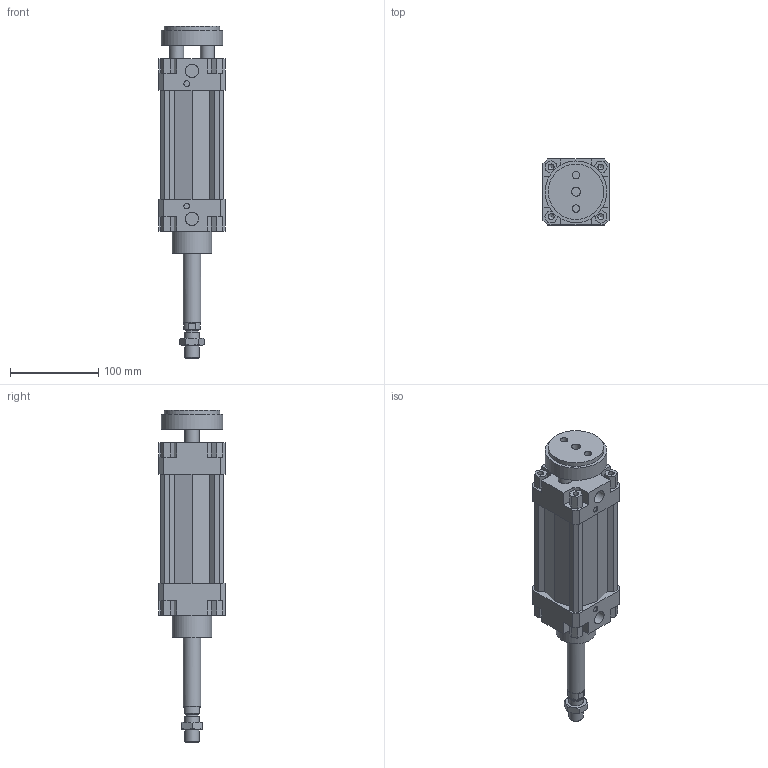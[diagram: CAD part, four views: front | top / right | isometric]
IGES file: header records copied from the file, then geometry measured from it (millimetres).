
Global section: file name: 132#_063_0075_02; native system: Autodesk Inventor 2014; preprocessor: unknown; author: A. Manieri; date: 20161006.155915; units: millimetre
Bounding box: 75 x 75 x 377 mm (x, y, z)
Volume: 858955.6 mm3; surface area: 176116.5 mm2
Topology: 3 solids, 3 shells, 220 faces, 589 edges, 397 vertices
Faces by surface type: bspline 220
